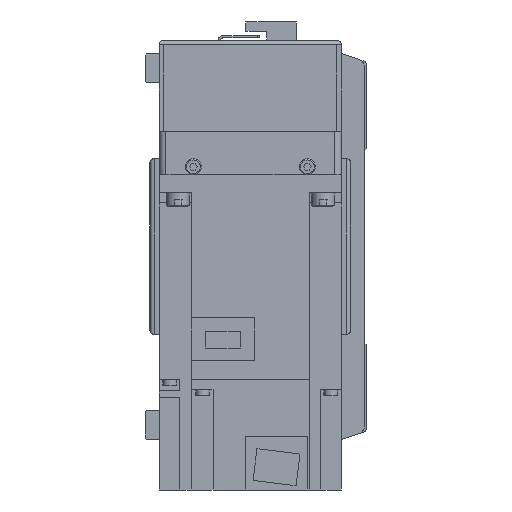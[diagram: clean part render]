
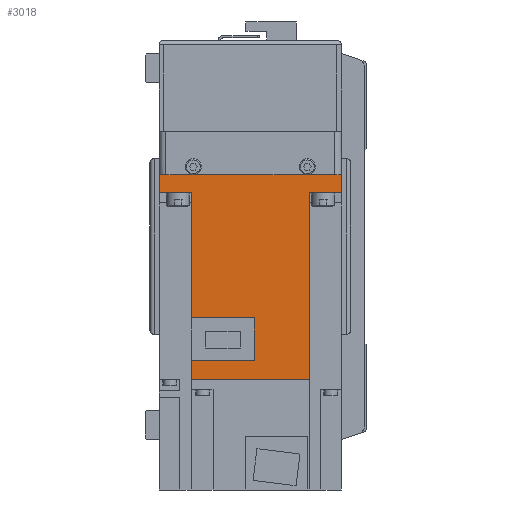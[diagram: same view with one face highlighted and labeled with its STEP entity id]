
A CAD part, left-side view. The second image highlights one B-rep face of the part: STEP entity #3018.
In plain terms, the highlighted planar face has unit normal (-1, 0, 0) as drawn and (1, 0, 0) by its records, which use the part's own axes.
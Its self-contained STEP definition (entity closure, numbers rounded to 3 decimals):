
#3018 = ADVANCED_FACE( '', ( #6179 ), #6180, .F. );
#6179 = FACE_OUTER_BOUND( '', #9301, .T. );
#6180 = PLANE( '', #9302 );
#9301 = EDGE_LOOP( '', ( #17875, #17876, #17877, #17878, #17879, #17880, #17881, #17882, #17883, #17884, #17885, #17886 ) );
#9302 = AXIS2_PLACEMENT_3D( '', #17887, #17888, #17889 );
#17875 = ORIENTED_EDGE( '', *, *, #19347, .F. );
#17876 = ORIENTED_EDGE( '', *, *, #18980, .F. );
#17877 = ORIENTED_EDGE( '', *, *, #19679, .F. );
#17878 = ORIENTED_EDGE( '', *, *, #21202, .T. );
#17879 = ORIENTED_EDGE( '', *, *, #19988, .F. );
#17880 = ORIENTED_EDGE( '', *, *, #18152, .T. );
#17881 = ORIENTED_EDGE( '', *, *, #20048, .T. );
#17882 = ORIENTED_EDGE( '', *, *, #18681, .F. );
#17883 = ORIENTED_EDGE( '', *, *, #19112, .F. );
#17884 = ORIENTED_EDGE( '', *, *, #18982, .F. );
#17885 = ORIENTED_EDGE( '', *, *, #18192, .F. );
#17886 = ORIENTED_EDGE( '', *, *, #20012, .F. );
#17887 = CARTESIAN_POINT( '', ( 40., 89.8, 40. ) );
#17888 = DIRECTION( '', ( -1., 0., 0. ) );
#17889 = DIRECTION( '', ( 0., 0., 1. ) );
#18152 = EDGE_CURVE( '', #21684, #21682, #21685, .T. );
#18192 = EDGE_CURVE( '', #21754, #21755, #21756, .T. );
#18681 = EDGE_CURVE( '', #22599, #22601, #22602, .T. );
#18980 = EDGE_CURVE( '', #23099, #23101, #23102, .T. );
#18982 = EDGE_CURVE( '', #21755, #23104, #23105, .T. );
#19112 = EDGE_CURVE( '', #23104, #22599, #23318, .T. );
#19347 = EDGE_CURVE( '', #23101, #23685, #23686, .T. );
#19679 = EDGE_CURVE( '', #24204, #23099, #24206, .T. );
#19988 = EDGE_CURVE( '', #21684, #24651, #24652, .T. );
#20012 = EDGE_CURVE( '', #23685, #21754, #24686, .T. );
#20048 = EDGE_CURVE( '', #21682, #22601, #24729, .T. );
#21202 = EDGE_CURVE( '', #24204, #24651, #26187, .T. );
#21682 = VERTEX_POINT( '', #26790 );
#21684 = VERTEX_POINT( '', #26793 );
#21685 = LINE( '', #26794, #26795 );
#21754 = VERTEX_POINT( '', #26882 );
#21755 = VERTEX_POINT( '', #26883 );
#21756 = LINE( '', #26884, #26885 );
#22599 = VERTEX_POINT( '', #28083 );
#22601 = VERTEX_POINT( '', #28086 );
#22602 = LINE( '', #28087, #28088 );
#23099 = VERTEX_POINT( '', #28875 );
#23101 = VERTEX_POINT( '', #28878 );
#23102 = LINE( '', #28879, #28880 );
#23104 = VERTEX_POINT( '', #28883 );
#23105 = LINE( '', #28884, #28885 );
#23318 = LINE( '', #29174, #29175 );
#23685 = VERTEX_POINT( '', #29712 );
#23686 = LINE( '', #29713, #29714 );
#24204 = VERTEX_POINT( '', #30426 );
#24206 = LINE( '', #30429, #30430 );
#24651 = VERTEX_POINT( '', #31104 );
#24652 = LINE( '', #31105, #31106 );
#24686 = LINE( '', #31156, #31157 );
#24729 = LINE( '', #31218, #31219 );
#26187 = LINE( '', #33298, #33299 );
#26790 = CARTESIAN_POINT( '', ( 40., 0., 40. ) );
#26793 = CARTESIAN_POINT( '', ( 40., 8., 40. ) );
#26794 = CARTESIAN_POINT( '', ( 40., 89.8, 40. ) );
#26795 = VECTOR( '', #33706, 1000. );
#26882 = CARTESIAN_POINT( '', ( 40., 62.8, 1.8 ) );
#26883 = CARTESIAN_POINT( '', ( 40., 62.8, -25.95 ) );
#26884 = CARTESIAN_POINT( '', ( 40., 62.8, 1.8 ) );
#26885 = VECTOR( '', #33761, 1000. );
#28083 = CARTESIAN_POINT( '', ( 40., 8., -40. ) );
#28086 = CARTESIAN_POINT( '', ( 40., 0., -40. ) );
#28087 = CARTESIAN_POINT( '', ( 40., 89.8, -40. ) );
#28088 = VECTOR( '', #34359, 1000. );
#28875 = CARTESIAN_POINT( '', ( 40., 89.8, -25.95 ) );
#28878 = CARTESIAN_POINT( '', ( 40., 81.4, -25.95 ) );
#28879 = CARTESIAN_POINT( '', ( 40., 158., -25.95 ) );
#28880 = VECTOR( '', #34731, 1000. );
#28883 = CARTESIAN_POINT( '', ( 40., 8., -25.95 ) );
#28884 = CARTESIAN_POINT( '', ( 40., 158., -25.95 ) );
#28885 = VECTOR( '', #34733, 1000. );
#29174 = CARTESIAN_POINT( '', ( 40., 8., 40. ) );
#29175 = VECTOR( '', #34893, 1000. );
#29712 = CARTESIAN_POINT( '', ( 40., 81.4, 1.8 ) );
#29713 = CARTESIAN_POINT( '', ( 40., 81.4, -26. ) );
#29714 = VECTOR( '', #35201, 1000. );
#30426 = CARTESIAN_POINT( '', ( 40., 89.8, 25.95 ) );
#30429 = CARTESIAN_POINT( '', ( 40., 89.8, 40. ) );
#30430 = VECTOR( '', #35640, 1000. );
#31104 = CARTESIAN_POINT( '', ( 40., 8., 25.95 ) );
#31105 = CARTESIAN_POINT( '', ( 40., 8., 40. ) );
#31106 = VECTOR( '', #36009, 1000. );
#31156 = CARTESIAN_POINT( '', ( 40., 81.4, 1.8 ) );
#31157 = VECTOR( '', #36039, 1000. );
#31218 = CARTESIAN_POINT( '', ( 40., 0., 40. ) );
#31219 = VECTOR( '', #36073, 1000. );
#33298 = CARTESIAN_POINT( '', ( 40., 158., 25.95 ) );
#33299 = VECTOR( '', #37214, 1000. );
#33706 = DIRECTION( '', ( 0., -1., 0. ) );
#33761 = DIRECTION( '', ( 0., 0., -1. ) );
#34359 = DIRECTION( '', ( 0., -1., 0. ) );
#34731 = DIRECTION( '', ( 0., -1., 0. ) );
#34733 = DIRECTION( '', ( 0., -1., 0. ) );
#34893 = DIRECTION( '', ( 0., 0., -1. ) );
#35201 = DIRECTION( '', ( 0., 0., 1. ) );
#35640 = DIRECTION( '', ( 0., 0., -1. ) );
#36009 = DIRECTION( '', ( 0., 0., -1. ) );
#36039 = DIRECTION( '', ( 0., -1., 0. ) );
#36073 = DIRECTION( '', ( 0., 0., -1. ) );
#37214 = DIRECTION( '', ( 0., -1., 0. ) );
